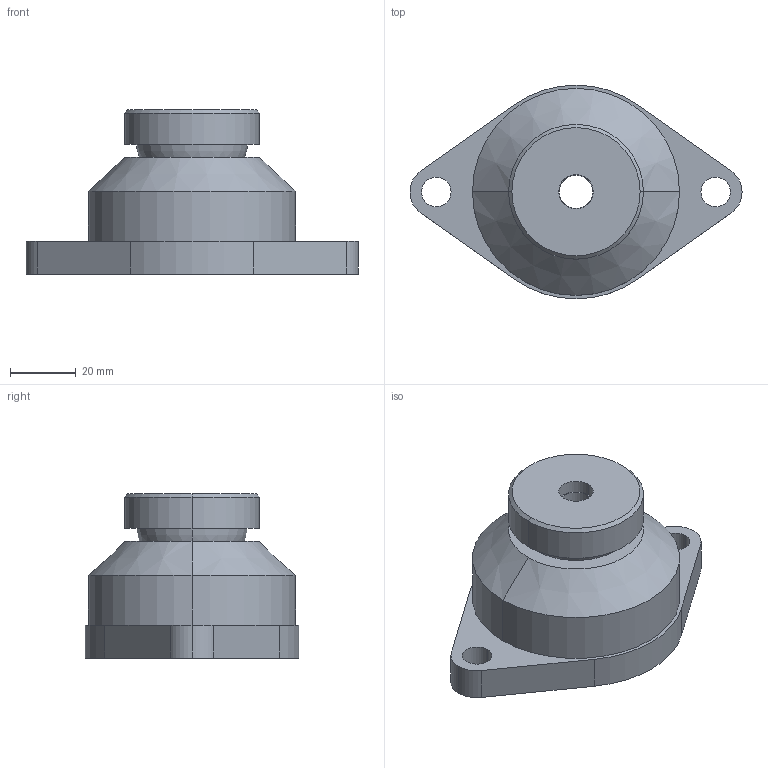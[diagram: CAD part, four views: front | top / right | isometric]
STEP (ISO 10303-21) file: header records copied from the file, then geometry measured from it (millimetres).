
FILE_DESCRIPTION(('STEP AP214'),'1');
FILE_NAME('T:/Entwicklung/EluFlex/3 Entwicklung (aktuell)/EluFlex 60/60 ZDUM/60 ZDUM.stp','2014-11-13T15:57:49',(' '),(' '),'Spatial InterOp 3D',' ',' ');
FILE_SCHEMA(('automotive_design'));
Length unit declared in the file: millimetre
Products named in the file (1): 1
Bounding box: 101 x 65 x 50 mm (x, y, z)
Volume: 98183.9 mm3; surface area: 25279.7 mm2
Topology: 1 solids, 1 shells, 62 faces, 139 edges, 89 vertices
Faces by surface type: cylinder 28, plane 16, cone 12, torus 6
Entity records: 1789 total; most frequent: DIRECTION 352, CARTESIAN_POINT 291, ORIENTED_EDGE 278, AXIS2_PLACEMENT_3D 150, EDGE_CURVE 139, VERTEX_POINT 89, CIRCLE 87, EDGE_LOOP 78
